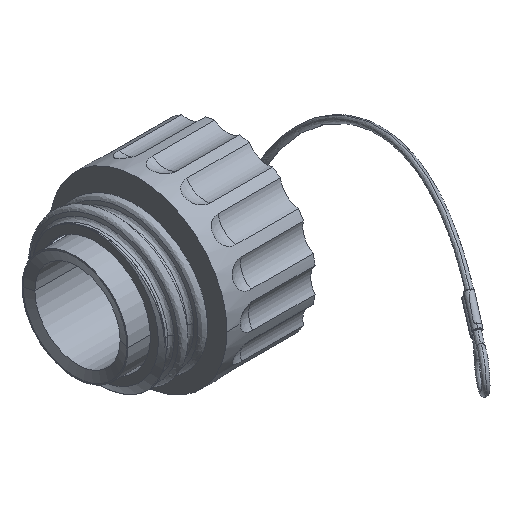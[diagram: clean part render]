
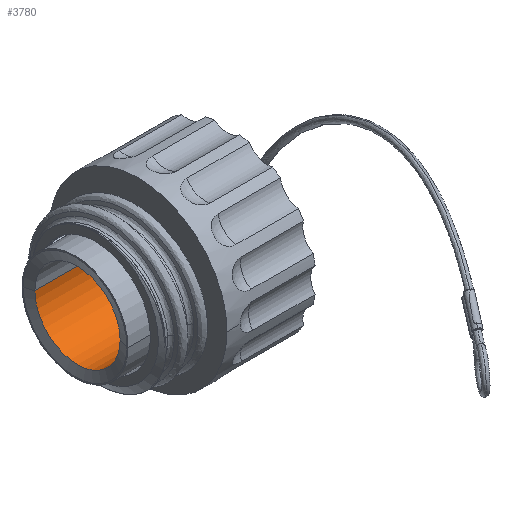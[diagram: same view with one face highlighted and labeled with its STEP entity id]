
A CAD part, isometric view. The second image highlights one B-rep face of the part: STEP entity #3780.
In plain terms, the highlighted cylindrical face has radius 6.95 mm (diameter 13.9 mm), a partial arc.
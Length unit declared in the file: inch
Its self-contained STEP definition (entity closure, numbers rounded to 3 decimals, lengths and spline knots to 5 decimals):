
#1460=CARTESIAN_POINT('',(-0.4685,0.,0.));
#1461=DIRECTION('',(1.,0.,0.));
#1462=DIRECTION('',(0.,-1.,0.));
#1463=AXIS2_PLACEMENT_3D('',#1460,#1461,#1462);
#1469=DIRECTION('',(1.,0.,0.));
#1470=VECTOR('',#1469,0.79134);
#1471=CARTESIAN_POINT('',(-0.4685,0.27362,0.));
#1472=LINE('',#1471,#1470);
#1473=DIRECTION('',(-1.,0.,0.));
#1474=VECTOR('',#1473,0.79134);
#1475=CARTESIAN_POINT('',(0.32283,-0.27362,0.));
#1476=LINE('',#1475,#1474);
#1477=CARTESIAN_POINT('',(0.32283,0.,0.));
#1478=DIRECTION('',(1.,0.,0.));
#1479=DIRECTION('',(0.,-1.,0.));
#1480=AXIS2_PLACEMENT_3D('',#1477,#1478,#1479);
#1681=CARTESIAN_POINT('',(-0.4685,0.27362,0.));
#1682=VERTEX_POINT('',#1681);
#1683=CARTESIAN_POINT('',(-0.4685,-0.27362,0.));
#1684=VERTEX_POINT('',#1683);
#1685=CARTESIAN_POINT('',(0.32283,0.27362,0.));
#1686=VERTEX_POINT('',#1685);
#1687=CARTESIAN_POINT('',(0.32283,-0.27362,0.));
#1688=VERTEX_POINT('',#1687);
#3766=CARTESIAN_POINT('',(-0.48433,0.,0.));
#3767=DIRECTION('',(1.,0.,0.));
#3768=DIRECTION('',(0.,-1.,0.));
#3769=AXIS2_PLACEMENT_3D('',#3766,#3767,#3768);
#3770=CYLINDRICAL_SURFACE('',#3769,0.27362);
#3772=ORIENTED_EDGE('',*,*,#3771,.T.);
#3774=ORIENTED_EDGE('',*,*,#3773,.F.);
#3776=ORIENTED_EDGE('',*,*,#3775,.T.);
#3777=ORIENTED_EDGE('',*,*,#3759,.T.);
#3778=EDGE_LOOP('',(#3772,#3774,#3776,#3777));
#3779=FACE_OUTER_BOUND('',#3778,.F.);
#3780=ADVANCED_FACE('',(#3779),#3770,.F.);
#1464=CIRCLE('',#1463,0.27362);
#1481=CIRCLE('',#1480,0.27362);
#3759=EDGE_CURVE('',#1684,#1682,#1464,.T.);
#3771=EDGE_CURVE('',#1682,#1686,#1472,.T.);
#3773=EDGE_CURVE('',#1688,#1686,#1481,.T.);
#3775=EDGE_CURVE('',#1688,#1684,#1476,.T.);
